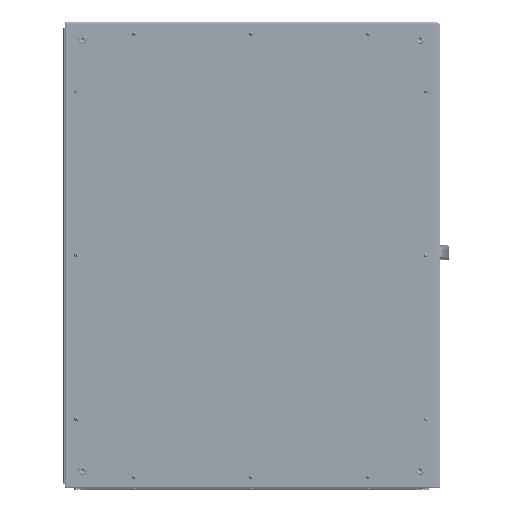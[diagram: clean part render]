
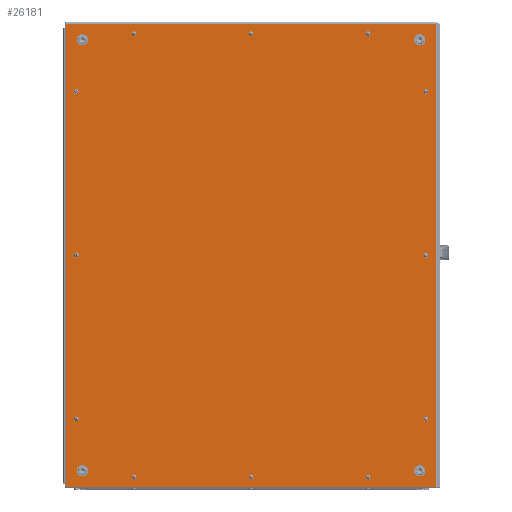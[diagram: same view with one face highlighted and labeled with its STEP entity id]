
A CAD part, top view. The second image highlights one B-rep face of the part: STEP entity #26181.
In plain terms, the highlighted planar face has unit normal (0, 0, 1).
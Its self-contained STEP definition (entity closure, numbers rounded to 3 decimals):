
#26181=ADVANCED_FACE('',(#154646,#154648,#154650,#154652,#154654,#154656,#154658,
#154660,#154662,#154664,#154666,#154668,#154670,#154672,#154674,#154676,#154678),
#154680,.T.);
#154646=FACE_BOUND('',#154647,.T.);
#154647=EDGE_LOOP('',(#378384,#378385,#378386,#378387));
#154648=FACE_BOUND('',#154649,.T.);
#154649=EDGE_LOOP('',(#378388));
#154650=FACE_BOUND('',#154651,.T.);
#154651=EDGE_LOOP('',(#378389));
#154652=FACE_BOUND('',#154653,.T.);
#154653=EDGE_LOOP('',(#378390));
#154654=FACE_BOUND('',#154655,.T.);
#154655=EDGE_LOOP('',(#378391));
#154656=FACE_BOUND('',#154657,.T.);
#154657=EDGE_LOOP('',(#378392));
#154658=FACE_BOUND('',#154659,.T.);
#154659=EDGE_LOOP('',(#378393));
#154660=FACE_BOUND('',#154661,.T.);
#154661=EDGE_LOOP('',(#378394));
#154662=FACE_BOUND('',#154663,.T.);
#154663=EDGE_LOOP('',(#378395));
#154664=FACE_BOUND('',#154665,.T.);
#154665=EDGE_LOOP('',(#378396));
#154666=FACE_BOUND('',#154667,.T.);
#154667=EDGE_LOOP('',(#378397));
#154668=FACE_BOUND('',#154669,.T.);
#154669=EDGE_LOOP('',(#378398));
#154670=FACE_BOUND('',#154671,.T.);
#154671=EDGE_LOOP('',(#378399));
#154672=FACE_BOUND('',#154673,.T.);
#154673=EDGE_LOOP('',(#378400));
#154674=FACE_BOUND('',#154675,.T.);
#154675=EDGE_LOOP('',(#378401));
#154676=FACE_BOUND('',#154677,.T.);
#154677=EDGE_LOOP('',(#378402));
#154678=FACE_BOUND('',#154679,.T.);
#154679=EDGE_LOOP('',(#378403));
#154680=PLANE('',#154681);
#154681=AXIS2_PLACEMENT_3D('',#154682,#154683,#154684);
#154682=CARTESIAN_POINT('',(0.,0.,1.5));
#154683=DIRECTION('',(0.,0.,1.));
#154684=DIRECTION('',(0.,1.,0.));
#378384=ORIENTED_EDGE('',*,*,#426347,.T.);
#378385=ORIENTED_EDGE('',*,*,#426348,.T.);
#378386=ORIENTED_EDGE('',*,*,#426349,.T.);
#378387=ORIENTED_EDGE('',*,*,#426350,.T.);
#378388=ORIENTED_EDGE('',*,*,#426326,.T.);
#378389=ORIENTED_EDGE('',*,*,#426325,.T.);
#378390=ORIENTED_EDGE('',*,*,#426324,.T.);
#378391=ORIENTED_EDGE('',*,*,#426323,.T.);
#378392=ORIENTED_EDGE('',*,*,#426322,.T.);
#378393=ORIENTED_EDGE('',*,*,#426321,.T.);
#378394=ORIENTED_EDGE('',*,*,#426320,.T.);
#378395=ORIENTED_EDGE('',*,*,#426319,.T.);
#378396=ORIENTED_EDGE('',*,*,#426314,.T.);
#378397=ORIENTED_EDGE('',*,*,#426315,.T.);
#378398=ORIENTED_EDGE('',*,*,#426316,.T.);
#378399=ORIENTED_EDGE('',*,*,#426317,.T.);
#378400=ORIENTED_EDGE('',*,*,#426313,.T.);
#378401=ORIENTED_EDGE('',*,*,#426312,.T.);
#378402=ORIENTED_EDGE('',*,*,#426311,.T.);
#378403=ORIENTED_EDGE('',*,*,#426310,.T.);
#426310=EDGE_CURVE('',#491346,#491346,#491347,.F.);
#426311=EDGE_CURVE('',#491348,#491348,#491349,.F.);
#426312=EDGE_CURVE('',#491350,#491350,#491351,.F.);
#426313=EDGE_CURVE('',#491352,#491352,#491353,.F.);
#426314=EDGE_CURVE('',#491354,#491354,#491355,.F.);
#426315=EDGE_CURVE('',#491356,#491356,#491357,.F.);
#426316=EDGE_CURVE('',#491358,#491358,#491359,.F.);
#426317=EDGE_CURVE('',#491360,#491360,#491361,.F.);
#426319=EDGE_CURVE('',#491364,#491364,#491365,.F.);
#426320=EDGE_CURVE('',#491366,#491366,#491367,.F.);
#426321=EDGE_CURVE('',#491368,#491368,#491369,.F.);
#426322=EDGE_CURVE('',#491370,#491370,#491371,.F.);
#426323=EDGE_CURVE('',#491372,#491372,#491373,.F.);
#426324=EDGE_CURVE('',#491374,#491374,#491375,.F.);
#426325=EDGE_CURVE('',#491376,#491376,#491377,.F.);
#426326=EDGE_CURVE('',#491378,#491378,#491379,.F.);
#426347=EDGE_CURVE('',#491416,#491417,#491418,.T.);
#426348=EDGE_CURVE('',#491417,#491419,#491420,.T.);
#426349=EDGE_CURVE('',#491419,#491421,#491422,.T.);
#426350=EDGE_CURVE('',#491421,#491416,#491423,.T.);
#491346=VERTEX_POINT('',#638144);
#491347=CIRCLE('',#638145,3.75);
#491348=VERTEX_POINT('',#638149);
#491349=CIRCLE('',#638150,3.75);
#491350=VERTEX_POINT('',#638154);
#491351=CIRCLE('',#638155,3.75);
#491352=VERTEX_POINT('',#638159);
#491353=CIRCLE('',#638160,3.75);
#491354=VERTEX_POINT('',#638164);
#491355=CIRCLE('',#638165,7.);
#491356=VERTEX_POINT('',#638169);
#491357=CIRCLE('',#638170,7.);
#491358=VERTEX_POINT('',#638174);
#491359=CIRCLE('',#638175,7.);
#491360=VERTEX_POINT('',#638179);
#491361=CIRCLE('',#638180,7.);
#491364=VERTEX_POINT('',#638189);
#491365=CIRCLE('',#638190,3.75);
#491366=VERTEX_POINT('',#638194);
#491367=CIRCLE('',#638195,3.75);
#491368=VERTEX_POINT('',#638199);
#491369=CIRCLE('',#638200,3.75);
#491370=VERTEX_POINT('',#638204);
#491371=CIRCLE('',#638205,3.75);
#491372=VERTEX_POINT('',#638209);
#491373=CIRCLE('',#638210,3.75);
#491374=VERTEX_POINT('',#638214);
#491375=CIRCLE('',#638215,3.75);
#491376=VERTEX_POINT('',#638219);
#491377=CIRCLE('',#638220,3.75);
#491378=VERTEX_POINT('',#638224);
#491379=CIRCLE('',#638225,3.75);
#491416=VERTEX_POINT('',#638441);
#491417=VERTEX_POINT('',#638442);
#491418=LINE('',#638443,#638444);
#491419=VERTEX_POINT('',#638446);
#491420=LINE('',#638447,#638448);
#491421=VERTEX_POINT('',#638450);
#491422=LINE('',#638451,#638452);
#491423=LINE('',#638454,#638455);
#638144=CARTESIAN_POINT('',(0.,-469.75,1.5));
#638145=AXIS2_PLACEMENT_3D('',#638146,#638147,#638148);
#638146=CARTESIAN_POINT('',(0.,-473.5,1.5));
#638147=DIRECTION('',(0.,0.,1.));
#638148=DIRECTION('',(0.,1.,0.));
#638149=CARTESIAN_POINT('',(0.,477.25,1.5));
#638150=AXIS2_PLACEMENT_3D('',#638151,#638152,#638153);
#638151=CARTESIAN_POINT('',(0.,473.5,1.5));
#638152=DIRECTION('',(0.,0.,1.));
#638153=DIRECTION('',(0.,1.,0.));
#638154=CARTESIAN_POINT('',(373.5,3.75,1.5));
#638155=AXIS2_PLACEMENT_3D('',#638156,#638157,#638158);
#638156=CARTESIAN_POINT('',(373.5,0.,1.5));
#638157=DIRECTION('',(0.,0.,1.));
#638158=DIRECTION('',(0.,1.,0.));
#638159=CARTESIAN_POINT('',(-373.5,3.75,1.5));
#638160=AXIS2_PLACEMENT_3D('',#638161,#638162,#638163);
#638161=CARTESIAN_POINT('',(-373.5,0.,1.5));
#638162=DIRECTION('',(0.,0.,1.));
#638163=DIRECTION('',(0.,1.,0.));
#638164=CARTESIAN_POINT('',(360.5,-453.5,1.5));
#638165=AXIS2_PLACEMENT_3D('',#638166,#638167,#638168);
#638166=CARTESIAN_POINT('',(360.5,-460.5,1.5));
#638167=DIRECTION('',(0.,0.,1.));
#638168=DIRECTION('',(0.,1.,0.));
#638169=CARTESIAN_POINT('',(-360.5,467.5,1.5));
#638170=AXIS2_PLACEMENT_3D('',#638171,#638172,#638173);
#638171=CARTESIAN_POINT('',(-360.5,460.5,1.5));
#638172=DIRECTION('',(0.,0.,1.));
#638173=DIRECTION('',(0.,1.,0.));
#638174=CARTESIAN_POINT('',(-360.5,-453.5,1.5));
#638175=AXIS2_PLACEMENT_3D('',#638176,#638177,#638178);
#638176=CARTESIAN_POINT('',(-360.5,-460.5,1.5));
#638177=DIRECTION('',(0.,0.,1.));
#638178=DIRECTION('',(0.,1.,0.));
#638179=CARTESIAN_POINT('',(360.5,467.5,1.5));
#638180=AXIS2_PLACEMENT_3D('',#638181,#638182,#638183);
#638181=CARTESIAN_POINT('',(360.5,460.5,1.5));
#638182=DIRECTION('',(0.,0.,1.));
#638183=DIRECTION('',(0.,1.,0.));
#638189=CARTESIAN_POINT('',(-373.5,-346.25,1.5));
#638190=AXIS2_PLACEMENT_3D('',#638191,#638192,#638193);
#638191=CARTESIAN_POINT('',(-373.5,-350.,1.5));
#638192=DIRECTION('',(0.,0.,1.));
#638193=DIRECTION('',(0.,1.,0.));
#638194=CARTESIAN_POINT('',(373.5,353.75,1.5));
#638195=AXIS2_PLACEMENT_3D('',#638196,#638197,#638198);
#638196=CARTESIAN_POINT('',(373.5,350.,1.5));
#638197=DIRECTION('',(0.,0.,1.));
#638198=DIRECTION('',(0.,1.,0.));
#638199=CARTESIAN_POINT('',(373.5,-346.25,1.5));
#638200=AXIS2_PLACEMENT_3D('',#638201,#638202,#638203);
#638201=CARTESIAN_POINT('',(373.5,-350.,1.5));
#638202=DIRECTION('',(0.,0.,1.));
#638203=DIRECTION('',(0.,1.,0.));
#638204=CARTESIAN_POINT('',(-373.5,353.75,1.5));
#638205=AXIS2_PLACEMENT_3D('',#638206,#638207,#638208);
#638206=CARTESIAN_POINT('',(-373.5,350.,1.5));
#638207=DIRECTION('',(0.,0.,1.));
#638208=DIRECTION('',(0.,1.,0.));
#638209=CARTESIAN_POINT('',(-250.,-469.75,1.5));
#638210=AXIS2_PLACEMENT_3D('',#638211,#638212,#638213);
#638211=CARTESIAN_POINT('',(-250.,-473.5,1.5));
#638212=DIRECTION('',(0.,0.,1.));
#638213=DIRECTION('',(0.,1.,0.));
#638214=CARTESIAN_POINT('',(250.,477.25,1.5));
#638215=AXIS2_PLACEMENT_3D('',#638216,#638217,#638218);
#638216=CARTESIAN_POINT('',(250.,473.5,1.5));
#638217=DIRECTION('',(0.,0.,1.));
#638218=DIRECTION('',(0.,1.,0.));
#638219=CARTESIAN_POINT('',(-250.,477.25,1.5));
#638220=AXIS2_PLACEMENT_3D('',#638221,#638222,#638223);
#638221=CARTESIAN_POINT('',(-250.,473.5,1.5));
#638222=DIRECTION('',(0.,0.,1.));
#638223=DIRECTION('',(0.,1.,0.));
#638224=CARTESIAN_POINT('',(250.,-469.75,1.5));
#638225=AXIS2_PLACEMENT_3D('',#638226,#638227,#638228);
#638226=CARTESIAN_POINT('',(250.,-473.5,1.5));
#638227=DIRECTION('',(0.,0.,1.));
#638228=DIRECTION('',(0.,1.,0.));
#638441=CARTESIAN_POINT('',(395.2,495.2,1.5));
#638442=CARTESIAN_POINT('',(-395.2,495.2,1.5));
#638443=CARTESIAN_POINT('',(395.2,495.2,1.5));
#638444=VECTOR('',#638445,1.);
#638445=DIRECTION('',(-1.,0.,0.));
#638446=CARTESIAN_POINT('',(-395.2,-495.2,1.5));
#638447=CARTESIAN_POINT('',(-395.2,495.2,1.5));
#638448=VECTOR('',#638449,1.);
#638449=DIRECTION('',(0.,-1.,0.));
#638450=CARTESIAN_POINT('',(395.2,-495.2,1.5));
#638451=CARTESIAN_POINT('',(-395.2,-495.2,1.5));
#638452=VECTOR('',#638453,1.);
#638453=DIRECTION('',(1.,0.,0.));
#638454=CARTESIAN_POINT('',(395.2,-495.2,1.5));
#638455=VECTOR('',#638456,1.);
#638456=DIRECTION('',(0.,1.,0.));
